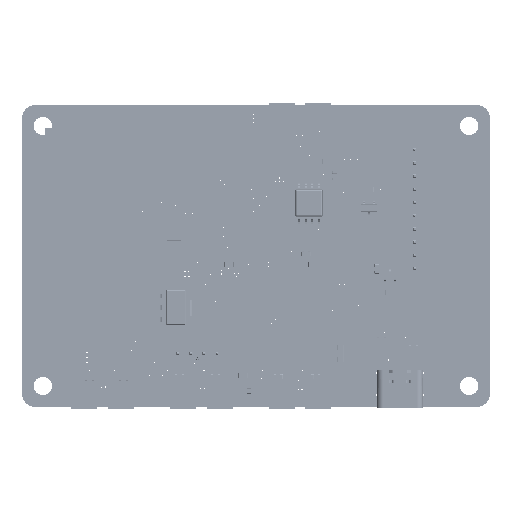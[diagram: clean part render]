
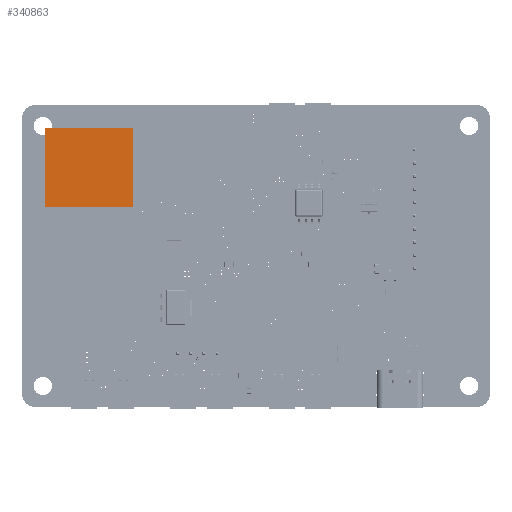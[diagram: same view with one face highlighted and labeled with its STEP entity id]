
A CAD part, top view. The second image highlights one B-rep face of the part: STEP entity #340863.
In plain terms, the highlighted planar face has unit normal (0, 0, 1).
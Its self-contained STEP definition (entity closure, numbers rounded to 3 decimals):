
#18278=PLANE('',#362787);
#35341=FACE_OUTER_BOUND('',#54737,.T.);
#54737=EDGE_LOOP('',(#314119,#314120,#314121,#314122));
#96469=LINE('',#540266,#140089);
#96470=LINE('',#540268,#140090);
#96471=LINE('',#540270,#140091);
#96472=LINE('',#540271,#140092);
#140089=VECTOR('',#443375,10.);
#140090=VECTOR('',#443376,10.);
#140091=VECTOR('',#443377,10.);
#140092=VECTOR('',#443378,10.);
#176829=VERTEX_POINT('',#540264);
#176830=VERTEX_POINT('',#540265);
#176831=VERTEX_POINT('',#540267);
#176832=VERTEX_POINT('',#540269);
#223051=EDGE_CURVE('',#176829,#176830,#96469,.T.);
#223052=EDGE_CURVE('',#176830,#176831,#96470,.T.);
#223053=EDGE_CURVE('',#176831,#176832,#96471,.T.);
#223054=EDGE_CURVE('',#176832,#176829,#96472,.T.);
#314119=ORIENTED_EDGE('',*,*,#223051,.T.);
#314120=ORIENTED_EDGE('',*,*,#223052,.T.);
#314121=ORIENTED_EDGE('',*,*,#223053,.T.);
#314122=ORIENTED_EDGE('',*,*,#223054,.T.);
#340863=ADVANCED_FACE('',(#35341),#18278,.T.);
#362787=AXIS2_PLACEMENT_3D('',#540263,#443373,#443374);
#443373=DIRECTION('center_axis',(0.,0.,1.));
#443374=DIRECTION('ref_axis',(1.,0.,0.));
#443375=DIRECTION('',(0.,1.,0.));
#443376=DIRECTION('',(-1.,0.,0.));
#443377=DIRECTION('',(0.,-1.,0.));
#443378=DIRECTION('',(1.,0.,0.));
#540263=CARTESIAN_POINT('Origin',(-0.568,0.209,0.1));
#540264=CARTESIAN_POINT('',(7.906,-7.399,0.1));
#540265=CARTESIAN_POINT('',(7.906,7.818,0.1));
#540266=CARTESIAN_POINT('',(7.906,0.209,0.1));
#540267=CARTESIAN_POINT('',(-9.042,7.818,0.1));
#540268=CARTESIAN_POINT('',(-0.568,7.818,0.1));
#540269=CARTESIAN_POINT('',(-9.042,-7.399,0.1));
#540270=CARTESIAN_POINT('',(-9.042,0.209,0.1));
#540271=CARTESIAN_POINT('',(-0.568,-7.399,0.1));
